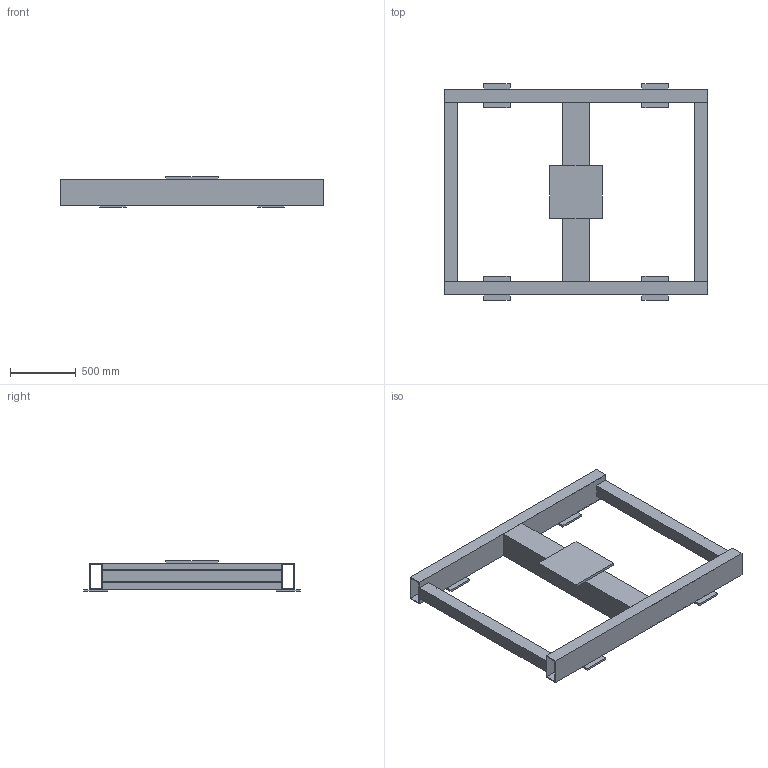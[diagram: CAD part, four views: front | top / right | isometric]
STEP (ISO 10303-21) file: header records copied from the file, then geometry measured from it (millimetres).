
FILE_DESCRIPTION(('Open CASCADE Model'),'2;1');
FILE_NAME('Open CASCADE Shape Model','2026-10-19T10:06:07',('Author'),( 'Open CASCADE'),'Open CASCADE STEP processor 7.8','Open CASCADE 7.8' ,'Unknown');
FILE_SCHEMA(('AUTOMOTIVE_DESIGN { 1 0 10303 214 1 1 1 1 }'));
Length unit declared in the file: millimetre
Products named in the file (11): DT2_frame_proposal; DT2-F01; DT2-F02; DT2-F03; DT2-F04; DT2-F05; DT2-P01; DT2-P02; DT2-P03; DT2-P04; DT2-P05
Assembly tree (10 placements, depth 2):
  DT2_frame_proposal
    DT2-F01
    DT2-F02
    DT2-F03
    DT2-F04
    DT2-F05
    DT2-P01
    DT2-P02
    DT2-P03
    DT2-P04
    DT2-P05
Bounding box: 2000 x 1640 x 235 mm (x, y, z)
Volume: 41879680 mm3; surface area: 9343872 mm2
Topology: 10 solids, 10 shells, 80 faces, 180 edges, 120 vertices
Faces by surface type: plane 80
Entity records: 4717 total; most frequent: CARTESIAN_POINT 831, DIRECTION 642, LINE 460, VECTOR 460, ORIENTED_EDGE 360, PCURVE 360, DEFINITIONAL_REPRESENTATION 360, EDGE_CURVE 180
